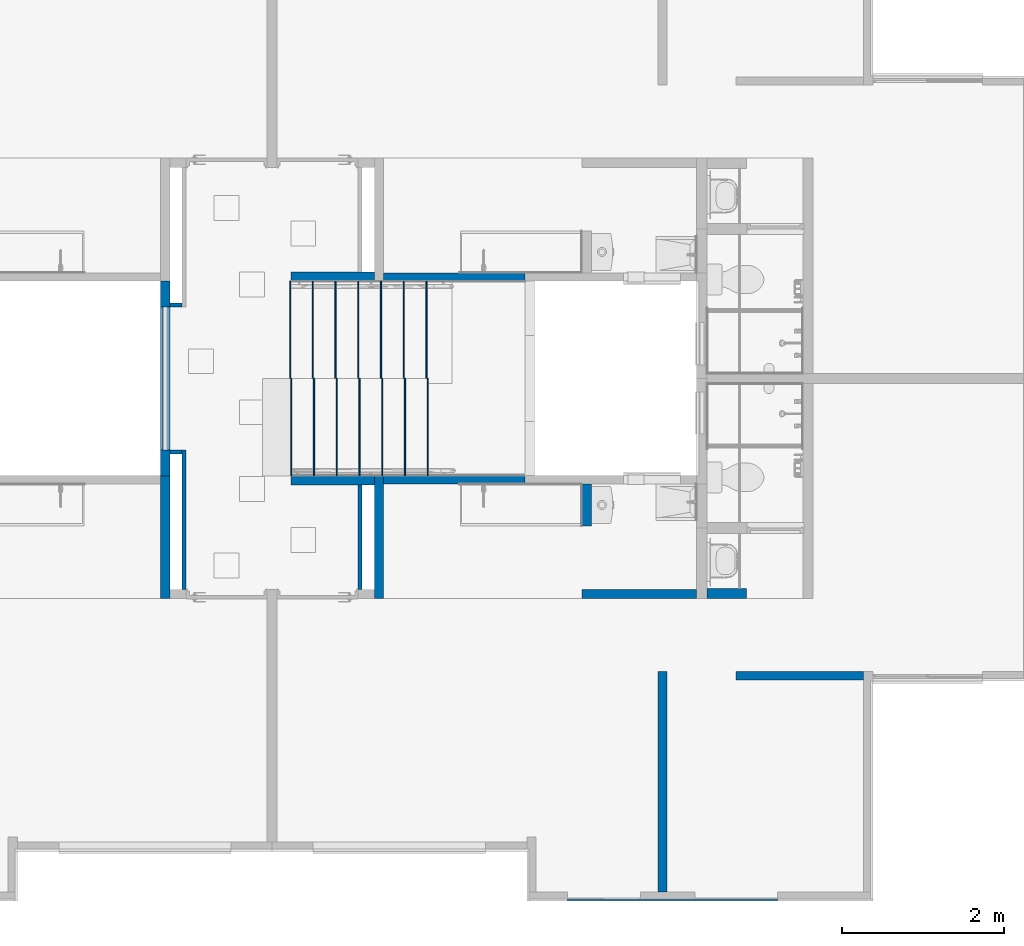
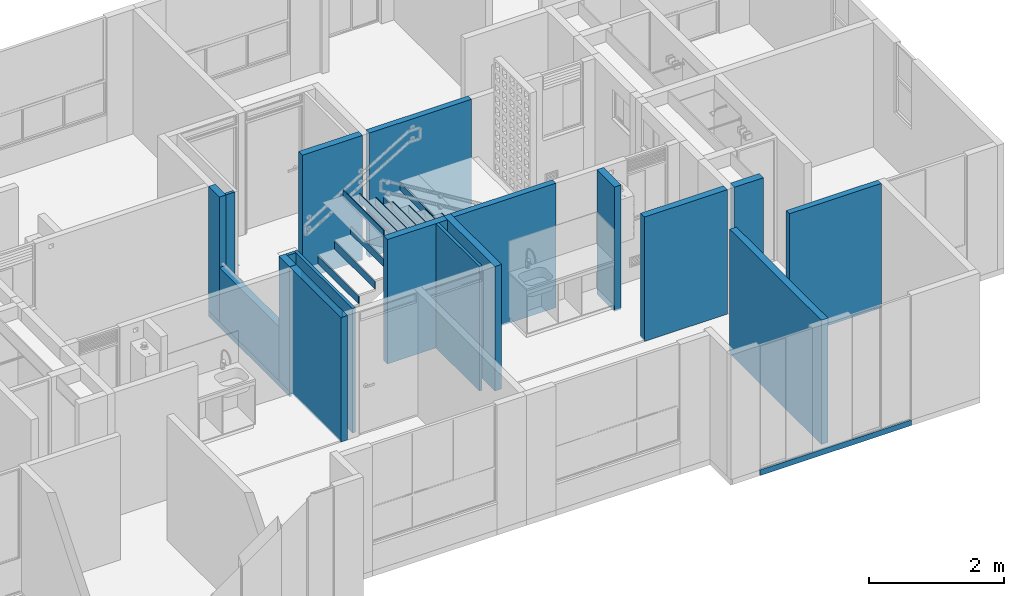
# One storey, part 13 of 48: 34 walls.
"""IFC4 building model written with IfcOpenShell, lengths in metres."""

import ifcopenshell
import ifcopenshell.guid

model = None  # the IFC model being written
_history = None  # IfcOwnerHistory: only IFC2X3 demands one
_inside = {}  # id of a spatial element -> (the spatial element, [elements in it])
_under = {}  # id of a project, library or spatial element -> (it, [spatial elements below it])
_declared = {}  # id of a project -> (the project, [libraries it declares])
_typed = {}  # id of a type object -> (the type object, [elements of that type])
_made_of = {}  # id of a material, layer set ... -> (it, [elements and type objects made of it])


def new_model(schema):
    """Start an empty IFC model of exactly this schema.

    Asked for "IFC4X3", IfcOpenShell would pick the latest addendum, in which some entities
    have other attributes; the version numbers below select the first issue.
    IFC2X3 requires an IfcOwnerHistory on every rooted entity: one is made here for all.
    """
    global model, _history
    if schema == "IFC4X3":
        model = ifcopenshell.file(schema_version=(4, 3, 0, 0))
    else:
        model = ifcopenshell.file(schema=schema)
    _inside.clear()
    _under.clear()
    _declared.clear()
    _typed.clear()
    _made_of.clear()
    _history = None
    if model.schema == "IFC2X3":
        org = make("IfcOrganization", Name="unknown")
        user = make(
            "IfcPersonAndOrganization",
            ThePerson=make("IfcPerson", FamilyName="unknown"),
            TheOrganization=org,
        )
        app = make(
            "IfcApplication",
            ApplicationDeveloper=org,
            Version="unknown",
            ApplicationFullName="unknown",
            ApplicationIdentifier="unknown",
        )
        _history = make(
            "IfcOwnerHistory",
            OwningUser=user,
            OwningApplication=app,
            ChangeAction="ADDED",
            CreationDate=0,
        )
    return model


def make(cls, **values):
    """One entity of the class cls with the attributes given. An attribute that is None is left unset."""
    return model.create_entity(
        cls, **{name: value for name, value in values.items() if value is not None}
    )


def entity(cls, *values):
    """Any entity or typed value of the class cls, its attributes in the order of the schema. None: left unset."""
    e = model.create_entity(cls)
    for i, value in enumerate(values):
        if value is not None:
            e[i] = value
    return e


def rooted(cls, **values):
    """An entity with a GlobalId (a new one), such as an element, a storey or a relation."""
    return make(cls, GlobalId=ifcopenshell.guid.new(), OwnerHistory=_history, **values)


def si_unit(unit_type, name, prefix=None):
    """IfcSIUnit, for example si_unit("LENGTHUNIT", "METRE", prefix="MILLI")."""
    return make("IfcSIUnit", UnitType=unit_type, Prefix=prefix, Name=name)


def converted_unit(unit_type, name, factor, base, dimensions=None, offset=None):
    """IfcConversionBasedUnit, such as the inch: factor (a typed value) times the base unit."""
    return make(
        "IfcConversionBasedUnit"
        if offset is None
        else "IfcConversionBasedUnitWithOffset",
        ConversionOffset=offset,
        Dimensions=None
        if dimensions is None
        else entity("IfcDimensionalExponents", *dimensions),
        UnitType=unit_type,
        Name=name,
        ConversionFactor=make(
            "IfcMeasureWithUnit", ValueComponent=factor, UnitComponent=base
        ),
    )


def derived_unit(unit_type, elements):
    """IfcDerivedUnit: a product of units, each with its exponent."""
    return make(
        "IfcDerivedUnit",
        Elements=[
            make("IfcDerivedUnitElement", Unit=unit, Exponent=power)
            for unit, power in elements
        ],
        UnitType=unit_type,
    )


def assignment(units):
    """IfcUnitAssignment: the units of a project."""
    return None if units is None else make("IfcUnitAssignment", Units=units)


def point(xyz):
    """IfcCartesianPoint."""
    return None if xyz is None else make("IfcCartesianPoint", Coordinates=xyz)


def direction(xyz):
    """IfcDirection."""
    return None if xyz is None else make("IfcDirection", DirectionRatios=xyz)


def frame(location, z_axis=None, x_axis=None):
    """IfcAxis2Placement3D, a coordinate frame: its origin and axes. An axis left out is left unset."""
    return make(
        "IfcAxis2Placement3D",
        Location=point(location),
        Axis=direction(z_axis),
        RefDirection=direction(x_axis),
    )


def origin():
    """The frame at (0, 0, 0) with its axes left unset."""
    return frame((0.0, 0.0, 0.0))


def place(relative_to, where):
    """IfcLocalPlacement: puts the frame where relative to a parent placement (None: the world)."""
    return make(
        "IfcLocalPlacement", PlacementRelTo=relative_to, RelativePlacement=where
    )


def context(
    kind, dimensions, precision=None, world=None, true_north=None, identifier=None
):
    """IfcGeometricRepresentationContext, for example the 3D "Model" context."""
    return make(
        "IfcGeometricRepresentationContext",
        ContextIdentifier=identifier,
        ContextType=kind,
        CoordinateSpaceDimension=dimensions,
        Precision=precision,
        WorldCoordinateSystem=world,
        TrueNorth=true_north,
    )


def subcontext(parent, identifier, kind, view, scale=None):
    """IfcGeometricRepresentationSubContext, for example "Body" below "Model"."""
    return make(
        "IfcGeometricRepresentationSubContext",
        ContextIdentifier=identifier,
        ContextType=kind,
        ParentContext=parent,
        TargetScale=scale,
        TargetView=view,
    )


def project(units=None, contexts=None):
    """IfcProject with its units and contexts."""
    return rooted(
        "IfcProject",
        Name="project",
        RepresentationContexts=contexts,
        UnitsInContext=assignment(units),
    )


def spatial(cls, under=None, at=None, **own):
    """A site, building, storey or space (cls), placed at a placement, below another one or the project."""
    s = rooted(cls, ObjectPlacement=at, **own)
    if under is not None:
        _under.setdefault(under.id(), (under, []))[1].append(s)
    return s


def point_list(points):
    """IfcCartesianPointList2D or 3D."""
    cls = (
        "IfcCartesianPointList2D" if len(points[0]) == 2 else "IfcCartesianPointList3D"
    )
    return make(cls, CoordList=points)


def indexed_curve(points, segments=None, self_intersect=None):
    """IfcIndexedPolyCurve: lines and arcs through numbered points (the first is 1)."""
    return make(
        "IfcIndexedPolyCurve",
        Points=point_list(points),
        Segments=segments,
        SelfIntersect=self_intersect,
    )


def outline(outer, holes=None, kind="AREA"):
    """IfcArbitraryClosedProfileDef: a profile drawn as a closed curve; with holes, ...WithVoids."""
    if holes is None:
        return make("IfcArbitraryClosedProfileDef", ProfileType=kind, OuterCurve=outer)
    return make(
        "IfcArbitraryProfileDefWithVoids",
        ProfileType=kind,
        OuterCurve=outer,
        InnerCurves=holes,
    )


def extrude(swept, where, along, depth):
    """IfcExtrudedAreaSolid: the profile swept, set in the frame where, extruded along a direction by depth."""
    return make(
        "IfcExtrudedAreaSolid",
        SweptArea=swept,
        Position=where,
        ExtrudedDirection=direction(along),
        Depth=depth,
    )


def shape(context_of_items, identifier, shape_type, items):
    """IfcShapeRepresentation: the items that make up one representation, for example the "Body"."""
    return make(
        "IfcShapeRepresentation",
        ContextOfItems=context_of_items,
        RepresentationIdentifier=identifier,
        RepresentationType=shape_type,
        Items=items,
    )


def material(Name=None, Category=None):
    """IfcMaterial."""
    return make("IfcMaterial", Name=Name, Category=Category)


def constituent(of_material, Name=None, Category=None, fraction=None):
    """IfcMaterialConstituent: one of the materials an element consists of."""
    return make(
        "IfcMaterialConstituent",
        Name=Name,
        Material=of_material,
        Fraction=fraction,
        Category=Category,
    )


def constituent_set(constituents=None, Name=None):
    """IfcMaterialConstituentSet."""
    return make(
        "IfcMaterialConstituentSet", Name=Name, MaterialConstituents=constituents
    )


def made_of(thing, what):
    """Note that an element or type object is made of a material, layer set ...; save() writes the relation."""
    if what is not None:
        _made_of.setdefault(what.id(), (what, []))[1].append(thing)
    return thing


def type_object(cls, material=None, **own):
    """A type object (cls), such as IfcWallType, which elements share."""
    return made_of(rooted(cls, **own), material)


def element(
    cls,
    number,
    at=None,
    inside=None,
    cuts=None,
    type_object=None,
    material=None,
    context=None,
    identifier="Body",
    shape_type=None,
    held_by="IfcProductDefinitionShape",
    body=None,
    shapes=None,
    **own,
):
    """One element of the class cls, such as IfcWall. Its Tag is "e" and its number.

    at: its placement. inside: the storey or other place that contains it. cuts: it is an
    opening in that element (IfcRelVoidsElement). A single representation is given by context,
    identifier, shape_type and body (its items); several are given by shapes. held_by: the class
    of the entity that holds the representations. save() writes the other relations.
    """
    e = rooted(cls, Tag="e%d" % number, ObjectPlacement=at, **own)
    if body is not None:
        shapes = [shape(context, identifier, shape_type, body)]
    if shapes is not None:
        e.Representation = make(held_by, Representations=shapes)
    if inside is not None:
        _inside.setdefault(inside.id(), (inside, []))[1].append(e)
    if cuts is not None:
        rooted(
            "IfcRelVoidsElement", RelatingBuildingElement=cuts, RelatedOpeningElement=e
        )
    if type_object is not None:
        _typed.setdefault(type_object.id(), (type_object, []))[1].append(e)
    return made_of(e, material)


def aggregate(whole, parts):
    """IfcRelAggregates: a whole, such as a stair, and the parts it consists of."""
    return rooted("IfcRelAggregates", RelatingObject=whole, RelatedObjects=parts)


def save(model, path):
    """Write the relations noted so far, then the file.

    IfcRelAggregates (storeys below a building ...), IfcRelContainedInSpatialStructure (elements
    in a storey), IfcRelDefinesByType, IfcRelAssociatesMaterial and IfcRelDeclares: one each for
    every whole, place, type object, material and project.
    """
    for whole, parts in _under.values():
        aggregate(whole, parts)
    for where, things in _inside.values():
        rooted(
            "IfcRelContainedInSpatialStructure",
            RelatedElements=things,
            RelatingStructure=where,
        )
    for kind, things in _typed.values():
        rooted("IfcRelDefinesByType", RelatedObjects=things, RelatingType=kind)
    for what, things in _made_of.values():
        rooted("IfcRelAssociatesMaterial", RelatedObjects=things, RelatingMaterial=what)
    for by, libraries in _declared.values():
        rooted("IfcRelDeclares", RelatingContext=by, RelatedDefinitions=libraries)
    model.write(path)


model = new_model("IFC4")

# Units and contexts
model_context = context("Model", 3, precision=1e-05, world=origin(), true_north=direction((6.123031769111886e-17, 1.0)))
body_context = subcontext(model_context, "Body", "Model", "MODEL_VIEW")
ifc_project = project(units=[si_unit("LENGTHUNIT", "METRE"), si_unit("AREAUNIT", "SQUARE_METRE"), si_unit("VOLUMEUNIT", "CUBIC_METRE"), converted_unit("PLANEANGLEUNIT", "DEGREE", entity("IfcRatioMeasure", 0.017453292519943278), si_unit("PLANEANGLEUNIT", "RADIAN"), dimensions=[0, 0, 0, 0, 0, 0, 0]), si_unit("MASSUNIT", "GRAM", prefix="KILO"), derived_unit("MASSDENSITYUNIT", [(si_unit("MASSUNIT", "GRAM", prefix="KILO"), 1), (si_unit("LENGTHUNIT", "METRE"), -3)]), derived_unit("IONCONCENTRATIONUNIT", [(si_unit("MASSUNIT", "GRAM", prefix="KILO"), 1), (si_unit("LENGTHUNIT", "METRE"), -3)]), derived_unit("MOMENTOFINERTIAUNIT", [(si_unit("LENGTHUNIT", "METRE"), 4)]), si_unit("TIMEUNIT", "SECOND"), si_unit("FREQUENCYUNIT", "HERTZ"), si_unit("THERMODYNAMICTEMPERATUREUNIT", "DEGREE_CELSIUS"), derived_unit("THERMALTRANSMITTANCEUNIT", [(si_unit("MASSUNIT", "GRAM", prefix="KILO"), 1), (si_unit("THERMODYNAMICTEMPERATUREUNIT", "KELVIN"), -1), (si_unit("TIMEUNIT", "SECOND"), -3)]), derived_unit("THERMALCONDUCTANCEUNIT", [(si_unit("MASSUNIT", "GRAM", prefix="KILO"), 1), (si_unit("THERMODYNAMICTEMPERATUREUNIT", "KELVIN"), -1), (si_unit("TIMEUNIT", "SECOND"), -3), (si_unit("LENGTHUNIT", "METRE"), 1)]), derived_unit("VOLUMETRICFLOWRATEUNIT", [(si_unit("LENGTHUNIT", "METRE"), 3), (si_unit("TIMEUNIT", "SECOND"), -1)]), derived_unit("MASSFLOWRATEUNIT", [(si_unit("MASSUNIT", "GRAM", prefix="KILO"), 1), (si_unit("TIMEUNIT", "SECOND"), -1)]), derived_unit("ROTATIONALFREQUENCYUNIT", [(si_unit("TIMEUNIT", "SECOND"), -1)]), si_unit("ELECTRICCURRENTUNIT", "AMPERE"), si_unit("ELECTRICVOLTAGEUNIT", "VOLT"), si_unit("POWERUNIT", "WATT"), si_unit("FORCEUNIT", "NEWTON", prefix="KILO"), si_unit("ILLUMINANCEUNIT", "LUX"), si_unit("LUMINOUSFLUXUNIT", "LUMEN"), si_unit("LUMINOUSINTENSITYUNIT", "CANDELA"), derived_unit("USERDEFINED", [(si_unit("MASSUNIT", "GRAM", prefix="KILO"), -1), (si_unit("LENGTHUNIT", "METRE"), -2), (si_unit("TIMEUNIT", "SECOND"), 3), (si_unit("LUMINOUSFLUXUNIT", "LUMEN"), 1)]), derived_unit("USERDEFINED", [(si_unit("MASSUNIT", "GRAM", prefix="KILO"), 1), (si_unit("TIMEUNIT", "SECOND"), -3), (si_unit("LENGTHUNIT", "METRE"), 3), (si_unit("ELECTRICCURRENTUNIT", "AMPERE"), -2)]), derived_unit("SOUNDPOWERUNIT", [(si_unit("MASSUNIT", "GRAM", prefix="KILO"), 1), (si_unit("TIMEUNIT", "SECOND"), -3), (si_unit("LENGTHUNIT", "METRE"), 2)]), derived_unit("SOUNDPRESSUREUNIT", [(si_unit("MASSUNIT", "GRAM", prefix="KILO"), 1), (si_unit("LENGTHUNIT", "METRE"), -1), (si_unit("TIMEUNIT", "SECOND"), -2)]), derived_unit("LINEARVELOCITYUNIT", [(si_unit("LENGTHUNIT", "METRE"), 1), (si_unit("TIMEUNIT", "SECOND"), -1)]), si_unit("PRESSUREUNIT", "PASCAL"), derived_unit("USERDEFINED", [(si_unit("MASSUNIT", "GRAM", prefix="KILO"), 1), (si_unit("LENGTHUNIT", "METRE"), -2), (si_unit("TIMEUNIT", "SECOND"), -2)]), derived_unit("LINEARFORCEUNIT", [(si_unit("MASSUNIT", "GRAM", prefix="KILO"), 1), (si_unit("TIMEUNIT", "SECOND"), -2)]), derived_unit("PLANARFORCEUNIT", [(si_unit("MASSUNIT", "GRAM", prefix="KILO"), 1), (si_unit("LENGTHUNIT", "METRE"), -1), (si_unit("TIMEUNIT", "SECOND"), -2)]), derived_unit("SPECIFICHEATCAPACITYUNIT", [(si_unit("THERMODYNAMICTEMPERATUREUNIT", "KELVIN"), -1), (si_unit("LENGTHUNIT", "METRE"), 2), (si_unit("TIMEUNIT", "SECOND"), -2)]), derived_unit("HEATINGVALUEUNIT", [(si_unit("LENGTHUNIT", "METRE"), 2), (si_unit("TIMEUNIT", "SECOND"), -2)]), derived_unit("VAPORPERMEABILITYUNIT", [(si_unit("LENGTHUNIT", "METRE"), -1), (si_unit("TIMEUNIT", "SECOND"), 1)]), derived_unit("DYNAMICVISCOSITYUNIT", [(si_unit("MASSUNIT", "GRAM", prefix="KILO"), 1), (si_unit("TIMEUNIT", "SECOND"), -1), (si_unit("LENGTHUNIT", "METRE"), -1)]), derived_unit("THERMALEXPANSIONCOEFFICIENTUNIT", [(si_unit("THERMODYNAMICTEMPERATUREUNIT", "KELVIN"), -1)]), derived_unit("MODULUSOFELASTICITYUNIT", [(si_unit("MASSUNIT", "GRAM", prefix="KILO"), 1), (si_unit("LENGTHUNIT", "METRE"), -1), (si_unit("TIMEUNIT", "SECOND"), -2)]), derived_unit("ISOTHERMALMOISTURECAPACITYUNIT", [(si_unit("LENGTHUNIT", "METRE"), 3), (si_unit("MASSUNIT", "GRAM", prefix="KILO"), -1)]), derived_unit("MOISTUREDIFFUSIVITYUNIT", [(si_unit("TIMEUNIT", "SECOND"), -1), (si_unit("LENGTHUNIT", "METRE"), 2)])], contexts=[model_context])

# Site, building, storey
site_placement = place(None, origin())
site = spatial("IfcSite", under=ifc_project, at=site_placement, Name="Default", CompositionType="ELEMENT")
building_placement = place(site_placement, origin())
building = spatial("IfcBuilding", under=site, at=building_placement, CompositionType="ELEMENT")
storey_placement = place(building_placement, frame((0.0, 0.0, 9.40000000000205)))
storey = spatial("IfcBuildingStorey", under=building, at=storey_placement, Name="Nivel 5", CompositionType="ELEMENT", Elevation=9.40000000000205)

# Walls
ifc_material_1 = material(Name="Ladrillo claro (Aire)", Category="Materials")
wall_type_1 = type_object("IfcWallType", Name="Basic Wall:B2010 - 0.115m - Muro interior en mampostería - Ladrillo", PredefinedType="STANDARD")
wall_1_placement = place(storey_placement, frame((14.135000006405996, -12.755000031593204, 0.0), z_axis=(0.0, 0.0, 1.0), x_axis=(0.0, 1.0, 0.0)))
element("IfcWall", 1, at=wall_1_placement, inside=storey, type_object=wall_type_1, material=ifc_material_1, Name="Basic Wall:B2010 - 0.115m - Muro interior en mampostería - Ladrillo", ObjectType="Basic Wall:B2010 - 0.115m - Muro interior en mampostería - Ladrillo", PredefinedType="NOTDEFINED", context=body_context, shape_type="SweptSolid", body=[
    extrude(outline(indexed_curve([(2.7150000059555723, 0.05750000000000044), (8.08167206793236e-17, 0.057499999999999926), (-8.08167206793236e-17, -0.057499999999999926), (2.7150000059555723, -0.057499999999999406), (2.7150000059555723, 0.05750000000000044)], self_intersect=False)), origin(), (0.0, 0.0, 1.0), 2.2499999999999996),
])
wall_2_placement = place(storey_placement, frame((14.557500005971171, -9.082499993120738, 0.0), z_axis=(0.0, 0.0, 1.0), x_axis=(-1.0, 0.0, 0.0)))
element("IfcWall", 2, at=wall_2_placement, inside=storey, type_object=wall_type_1, material=ifc_material_1, Name="Basic Wall:B2010 - 0.115m - Muro interior en mampostería - Ladrillo", ObjectType="Basic Wall:B2010 - 0.115m - Muro interior en mampostería - Ladrillo", PredefinedType="NOTDEFINED", context=body_context, shape_type="SweptSolid", body=[
    extrude(outline(indexed_curve([(1.4149999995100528, 0.05750000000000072), (-5.604877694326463e-16, 0.057499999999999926), (5.604877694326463e-16, -0.057499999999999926), (1.414999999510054, -0.05749999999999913), (1.4149999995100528, 0.05750000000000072)], self_intersect=False)), origin(), (0.0, 0.0, 1.0), 2.2499999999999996),
])
wall_3_placement = place(storey_placement, frame((10.639999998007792, -7.625000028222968, 0.0), z_axis=(0.0, 0.0, 1.0), x_axis=(0.0, -1.0, 0.0)))
element("IfcWall", 3, at=wall_3_placement, inside=storey, type_object=wall_type_1, material=ifc_material_1, Name="Basic Wall:B2010 - 0.115m - Muro interior en mampostería - Ladrillo", ObjectType="Basic Wall:B2010 - 0.115m - Muro interior en mampostería - Ladrillo", PredefinedType="NOTDEFINED", context=body_context, shape_type="SweptSolid", body=[
    extrude(outline(indexed_curve([(1.5150000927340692, 0.05750000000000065), (-2.7419363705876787e-16, 0.057499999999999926), (2.7419363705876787e-16, -0.057499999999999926), (1.5150000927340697, -0.0574999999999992), (1.5150000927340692, 0.05750000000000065)], self_intersect=False)), origin(), (0.0, 0.0, 1.0), 2.2499999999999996),
])
wall_4_placement = place(storey_placement, frame((8.00500000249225, -7.6250000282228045, 0.0), z_axis=(0.0, 0.0, 1.0), x_axis=(0.0, -1.0, 0.0)))
element("IfcWall", 4, at=wall_4_placement, inside=storey, type_object=wall_type_1, material=ifc_material_1, Name="Basic Wall:B2010 - 0.115m - Muro interior en mampostería - Ladrillo", ObjectType="Basic Wall:B2010 - 0.115m - Muro interior en mampostería - Ladrillo", PredefinedType="NOTDEFINED", context=body_context, shape_type="SweptSolid", body=[
    extrude(outline(indexed_curve([(1.5150000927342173, 0.05750000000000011), (-4.5913366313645e-16, 0.057499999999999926), (4.5913366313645e-16, -0.057499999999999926), (1.5150000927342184, -0.05749999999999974), (1.5150000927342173, 0.05750000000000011)], self_intersect=False)), origin(), (0.0, 0.0, 1.0), 2.250000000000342),
])
ifc_material_2 = material(Name="Concreto (Aire)", Category="Materials")
wall_type_2 = type_object("IfcWallType", Name="Basic Wall:B2010 - 0.10m - Muro interior en concreto", PredefinedType="STANDARD")
wall_5_placement = place(storey_placement, frame((16.612500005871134, -10.090000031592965, 0.0), z_axis=(0.0, 0.0, 1.0), x_axis=(-1.0, 0.0, 0.0)))
element("IfcWall", 5, at=wall_5_placement, inside=storey, type_object=wall_type_2, material=ifc_material_2, Name="Basic Wall:B2010 - 0.10m - Muro interior en concreto", ObjectType="Basic Wall:B2010 - 0.10m - Muro interior en concreto", PredefinedType="NOTDEFINED", context=body_context, shape_type="SweptSolid", body=[
    extrude(outline(indexed_curve([(1.5699999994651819, 0.04999999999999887), (7.775903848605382e-16, 0.04999999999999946), (-7.775903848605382e-16, -0.04999999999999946), (1.5699999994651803, -0.05000000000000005), (1.5699999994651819, 0.04999999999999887)], self_intersect=False)), origin(), (0.0, 0.0, 1.0), 2.2499999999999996),
])
ifc_material_3 = material(Name="Pañete", Category="Materials")
ifc_constituent_1 = constituent(ifc_material_3, Name="Pañete", Category="Materials")
ifc_constituent_2 = constituent(ifc_material_1, Name="Ladrillo claro (Aire)", Category="Materials")
ifc_constituent_set_1 = constituent_set(constituents=[ifc_constituent_1, ifc_constituent_2], Name="Basic Wall:B2010 - 0.115m - Muro interior en mampostería - Ladrillo + Pañete")
wall_type_3 = type_object("IfcWallType", Name="Basic Wall:B2010 - 0.115m - Muro interior en mampostería - Ladrillo + Pañete", PredefinedType="STANDARD", material=ifc_constituent_set_1)
wall_6_placement = place(storey_placement, frame((15.172500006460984, -9.07749999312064, 0.0), z_axis=(0.0, 0.0, 1.0), x_axis=(-1.0, 0.0, 0.0)))
element("IfcWall", 6, at=wall_6_placement, inside=storey, type_object=wall_type_3, material=ifc_constituent_set_1, Name="Basic Wall:B2010 - 0.115m - Muro interior en mampostería - Ladrillo + Pañete", ObjectType="Basic Wall:B2010 - 0.115m - Muro interior en mampostería - Ladrillo + Pañete", PredefinedType="NOTDEFINED", context=body_context, shape_type="SweptSolid", body=[
    extrude(outline(indexed_curve([(-0.005000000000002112, -0.24500000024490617), (0.0049999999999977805, -0.24500000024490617), (0.005000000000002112, 0.24500000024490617), (-0.0049999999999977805, 0.24500000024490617), (-0.005000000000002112, -0.24500000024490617)], self_intersect=False)), frame((0.24500000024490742, -0.057499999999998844, 0.0), z_axis=(0.0, 0.0, 1.0), x_axis=(0.0, 1.0, 0.0)), (0.0, 0.0, 1.0), 2.2500000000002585),
    extrude(outline(indexed_curve([(-0.05749999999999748, -0.24500000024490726), (0.05750000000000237, -0.24500000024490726), (0.05749999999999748, 0.2450000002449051), (-0.05750000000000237, 0.24500000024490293), (-0.05749999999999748, -0.24500000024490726)], self_intersect=False)), frame((0.245000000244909, 0.005000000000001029, 0.0), z_axis=(0.0, 0.0, 1.0), x_axis=(0.0, -1.0, 0.0)), (0.0, 0.0, 1.0), 2.2500000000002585),
])
ifc_material_4 = material(Name="LADRILLO CLARO", Category="Materials")
wall_type_4 = type_object("IfcWallType", Name="Basic Wall:B2010 - 0.115m - MI mampostería no estructural - Ladrillo", PredefinedType="STANDARD")
wall_7_placement = place(storey_placement, frame((8.005000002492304, -5.545000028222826, 0.0), z_axis=(0.0, 0.0, 1.0), x_axis=(0.0, -1.0, 0.0)))
element("IfcWall", 7, at=wall_7_placement, inside=storey, type_object=wall_type_4, material=ifc_material_4, Name="Basic Wall:B2010 - 0.115m - MI mampostería no estructural - Ladrillo", ObjectType="Basic Wall:B2010 - 0.115m - MI mampostería no estructural - Ladrillo", PredefinedType="NOTDEFINED", context=body_context, shape_type="SweptSolid", body=[
    extrude(outline(indexed_curve([(1.7599999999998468, 0.05750000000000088), (-1.0186480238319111e-16, 0.057499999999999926), (1.0186480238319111e-16, -0.057499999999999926), (1.7599999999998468, -0.05749999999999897), (1.7599999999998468, 0.05750000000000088)], self_intersect=False)), origin(), (0.0, 0.0, 1.0), 0.9749999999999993),
])
wall_8_placement = place(storey_placement, frame((13.200000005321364, -8.245000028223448, 0.0), z_axis=(0.0, 0.0, 1.0), x_axis=(0.0, 1.0, 0.0)))
element("IfcWall", 8, at=wall_8_placement, inside=storey, type_object=wall_type_4, material=ifc_material_4, Name="Basic Wall:B2010 - 0.115m - MI mampostería no estructural - Ladrillo", ObjectType="Basic Wall:B2010 - 0.115m - MI mampostería no estructural - Ladrillo", PredefinedType="NOTDEFINED", context=body_context, shape_type="SweptSolid", body=[
    extrude(outline(indexed_curve([(0.5195000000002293, 0.057499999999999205), (-1.6027407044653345e-16, 0.057499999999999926), (1.6027407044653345e-16, -0.057499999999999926), (0.5195000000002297, -0.05750000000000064), (0.5195000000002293, 0.057499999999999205)], self_intersect=False)), origin(), (0.0, 0.0, 1.0), 2.2500000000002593),
])
wall_9_placement = place(storey_placement, frame((8.00500000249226, -5.545000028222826, 0.0), z_axis=(0.0, 0.0, 1.0), x_axis=(0.0, 1.0, 0.0)))
element("IfcWall", 9, at=wall_9_placement, inside=storey, type_object=wall_type_4, material=ifc_material_4, Name="Basic Wall:B2010 - 0.115m - MI mampostería no estructural - Ladrillo", ObjectType="Basic Wall:B2010 - 0.115m - MI mampostería no estructural - Ladrillo", PredefinedType="NOTDEFINED", context=body_context, shape_type="SweptSolid", body=[
    extrude(outline(indexed_curve([(0.3200000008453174, 0.05750000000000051), (9.033989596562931e-17, 0.057499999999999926), (-9.033989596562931e-17, -0.057499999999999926), (0.3200000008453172, -0.057499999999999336), (0.3200000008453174, 0.05750000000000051)], self_intersect=False)), origin(), (0.0, 0.0, 1.0), 2.250000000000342),
])
wall_10_placement = place(storey_placement, frame((8.005000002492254, -7.305000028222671, 0.0), z_axis=(0.0, 0.0, 1.0), x_axis=(0.0, -1.0, 0.0)))
element("IfcWall", 10, at=wall_10_placement, inside=storey, type_object=wall_type_4, material=ifc_material_4, Name="Basic Wall:B2010 - 0.115m - MI mampostería no estructural - Ladrillo", ObjectType="Basic Wall:B2010 - 0.115m - MI mampostería no estructural - Ladrillo", PredefinedType="NOTDEFINED", context=body_context, shape_type="SweptSolid", body=[
    extrude(outline(indexed_curve([(0.3200000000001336, 0.05749999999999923), (-4.5913366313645e-16, 0.057499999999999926), (4.5913366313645e-16, -0.057499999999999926), (0.32000000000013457, -0.05750000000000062), (0.3200000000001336, 0.05749999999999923)], self_intersect=False)), origin(), (0.0, 0.0, 1.0), 2.250000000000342),
])
ifc_material_5 = material(Name="0 muro divisorio", Category="Materials")
wall_type_5 = type_object("IfcWallType", Name="Basic Wall:B2010 - 0.05m - MI No estructural- Concreto", PredefinedType="STANDARD")
wall_11_placement = place(storey_placement, frame((8.212500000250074, -5.520000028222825, 0.0), z_axis=(0.0, 0.0, 1.0), x_axis=(-1.0, 0.0, 0.0)))
element("IfcWall", 11, at=wall_11_placement, inside=storey, type_object=wall_type_5, material=ifc_material_5, Name="Basic Wall:B2010 - 0.05m - MI No estructural- Concreto", ObjectType="Basic Wall:B2010 - 0.05m - MI No estructural- Concreto", PredefinedType="NOTDEFINED", context=body_context, shape_type="SweptSolid", body=[
    extrude(outline(indexed_curve([(0.14999999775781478, 0.02499999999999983), (-1.6892508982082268e-17, 0.02499999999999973), (1.6892508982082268e-17, -0.02499999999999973), (0.1499999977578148, -0.02499999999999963), (0.14999999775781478, 0.02499999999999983)], self_intersect=False)), origin(), (0.0, 0.0, 1.0), 2.2499999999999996),
])
wall_12_placement = place(storey_placement, frame((8.237500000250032, -7.305000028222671, 0.0), z_axis=(0.0, 0.0, 1.0), x_axis=(0.0, -1.0, 0.0)))
element("IfcWall", 12, at=wall_12_placement, inside=storey, type_object=wall_type_5, material=ifc_material_5, Name="Basic Wall:B2010 - 0.05m - MI No estructural- Concreto", ObjectType="Basic Wall:B2010 - 0.05m - MI No estructural- Concreto", PredefinedType="NOTDEFINED", context=body_context, shape_type="SweptSolid", body=[
    extrude(outline(indexed_curve([(1.719999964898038, 0.02499999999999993), (-3.4343744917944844e-17, 0.02499999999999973), (3.4343744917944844e-17, -0.02499999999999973), (1.719999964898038, -0.024999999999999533), (1.719999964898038, 0.02499999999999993)], self_intersect=False)), origin(), (0.0, 0.0, 1.0), 2.2499999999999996),
])
wall_13_placement = place(storey_placement, frame((8.212500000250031, -7.330000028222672, 0.0), z_axis=(0.0, 0.0, 1.0), x_axis=(-1.0, 0.0, 0.0)))
element("IfcWall", 13, at=wall_13_placement, inside=storey, type_object=wall_type_5, material=ifc_material_5, Name="Basic Wall:B2010 - 0.05m - MI No estructural- Concreto", ObjectType="Basic Wall:B2010 - 0.05m - MI No estructural- Concreto", PredefinedType="NOTDEFINED", context=body_context, shape_type="SweptSolid", body=[
    extrude(outline(indexed_curve([(0.14999999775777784, 0.02499999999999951), (-1.4345260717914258e-16, 0.02499999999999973), (1.4345260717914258e-16, -0.02499999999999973), (0.14999999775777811, -0.024999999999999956), (0.14999999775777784, 0.02499999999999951)], self_intersect=False)), origin(), (0.0, 0.0, 1.0), 2.2499999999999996),
])
wall_14_placement = place(storey_placement, frame((10.407500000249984, -7.740000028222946, 0.0), z_axis=(0.0, 0.0, 1.0), x_axis=(0.0, -1.0, 0.0)))
element("IfcWall", 14, at=wall_14_placement, inside=storey, type_object=wall_type_5, material=ifc_material_5, Name="Basic Wall:B2010 - 0.05m - MI No estructural- Concreto", ObjectType="Basic Wall:B2010 - 0.05m - MI No estructural- Concreto", PredefinedType="NOTDEFINED", context=body_context, shape_type="SweptSolid", body=[
    extrude(outline(indexed_curve([(1.2849999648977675, 0.025000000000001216), (3.434374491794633e-17, 0.025000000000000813), (-3.434374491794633e-17, -0.025000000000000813), (1.2849999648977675, -0.02500000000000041), (1.2849999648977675, 0.025000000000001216)], self_intersect=False)), origin(), (0.0, 0.0, 1.0), 2.2499999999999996),
])
wall_type_6 = type_object("IfcWallType", Name="Basic Wall:B2010 - 0.03m - ME enchape  no estructural - Ladrillo", PredefinedType="STANDARD")
wall_15_placement = place(storey_placement, frame((7.962500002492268, -5.225000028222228, -0.1000000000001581), z_axis=(0.0, 0.0, 1.0), x_axis=(0.0, -1.0, 0.0)))
element("IfcWall", 15, at=wall_15_placement, inside=storey, type_object=wall_type_6, material=ifc_material_4, Name="Basic Wall:B2010 - 0.03m - ME enchape  no estructural - Ladrillo", ObjectType="Basic Wall:B2010 - 0.03m - ME enchape  no estructural - Ladrillo", PredefinedType="NOTDEFINED", context=body_context, shape_type="SweptSolid", body=[
    extrude(outline(indexed_curve([(2.4000000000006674, 0.014999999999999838), (-2.7071678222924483e-17, 0.014999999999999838), (2.7071678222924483e-17, -0.014999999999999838), (2.4000000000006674, -0.014999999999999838), (2.4000000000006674, 0.014999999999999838)], self_intersect=False)), origin(), (0.0, 0.0, 1.0), 0.09999999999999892),
])
wall_16_placement = place(storey_placement, frame((12.962500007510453, -12.855000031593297, -0.10000000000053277)))
element("IfcWall", 16, at=wall_16_placement, inside=storey, type_object=wall_type_6, material=ifc_material_4, Name="Basic Wall:B2010 - 0.03m - ME enchape  no estructural - Ladrillo", ObjectType="Basic Wall:B2010 - 0.03m - ME enchape  no estructural - Ladrillo", PredefinedType="NOTDEFINED", context=body_context, shape_type="SweptSolid", body=[
    extrude(outline(indexed_curve([(2.5899999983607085, 0.015000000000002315), (-4.570130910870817e-17, 0.015000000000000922), (4.570130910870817e-17, -0.015000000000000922), (2.5899999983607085, -0.014999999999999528), (2.5899999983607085, 0.015000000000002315)], self_intersect=False)), origin(), (0.0, 0.0, 1.0), 0.09999999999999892),
])
ifc_material_6 = material(Name="Pintura blanca", Category="Materials")
ifc_constituent_3 = constituent(ifc_material_6, Name="Pintura blanca", Category="Materials")
ifc_constituent_4 = constituent(ifc_material_2, Name="Concreto (Aire)", Category="Materials")
ifc_constituent_set_2 = constituent_set(constituents=[ifc_constituent_3, ifc_constituent_4], Name="Basic Wall:B2010 - 0.10m - MI Concreto- Concreto+ Pintura")
wall_type_7 = type_object("IfcWallType", Name="Basic Wall:B2010 - 0.10m - MI Concreto- Concreto+ Pintura", PredefinedType="STANDARD", material=ifc_constituent_set_2)
wall_17_placement = place(storey_placement, frame((10.6974999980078, -5.175000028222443, 0.0)))
element("IfcWall", 17, at=wall_17_placement, inside=storey, type_object=wall_type_7, material=ifc_constituent_set_2, Name="Basic Wall:B2010 - 0.10m - MI Concreto- Concreto+ Pintura", ObjectType="Basic Wall:B2010 - 0.10m - MI Concreto- Concreto+ Pintura", PredefinedType="NOTDEFINED", context=body_context, shape_type="SweptSolid", body=[
    extrude(outline(indexed_curve([(-0.000500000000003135, -0.8725000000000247), (0.0004999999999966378, -0.8725000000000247), (0.0005000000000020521, 0.8725000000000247), (-0.0004999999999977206, 0.8725000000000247), (-0.000500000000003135, -0.8725000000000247)], self_intersect=False)), frame((0.8725000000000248, -0.04999999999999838, 0.0), z_axis=(0.0, 0.0, 1.0), x_axis=(0.0, 1.0, 0.0)), (0.0, 0.0, 1.0), 2.2500000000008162),
    extrude(outline(indexed_curve([(-0.05000000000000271, -0.8725000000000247), (0.0499999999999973, -0.8725000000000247), (0.05000000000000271, 0.8725000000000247), (-0.0499999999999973, 0.8725000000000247), (-0.05000000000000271, -0.8725000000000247)], self_intersect=False)), frame((0.8725000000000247, 0.0005000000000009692, 0.0), z_axis=(0.0, 0.0, 1.0), x_axis=(0.0, -1.0, 0.0)), (0.0, 0.0, 1.0), 2.2500000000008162),
])
wall_18_placement = place(storey_placement, frame((10.69749999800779, -7.675000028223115, 0.0)))
element("IfcWall", 18, at=wall_18_placement, inside=storey, type_object=wall_type_7, material=ifc_constituent_set_2, Name="Basic Wall:B2010 - 0.10m - MI Concreto- Concreto+ Pintura", ObjectType="Basic Wall:B2010 - 0.10m - MI Concreto- Concreto+ Pintura", PredefinedType="NOTDEFINED", context=body_context, shape_type="SweptSolid", body=[
    extrude(outline(indexed_curve([(-0.000500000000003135, -0.8725000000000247), (0.0004999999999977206, -0.8725000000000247), (0.000500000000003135, 0.8725000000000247), (-0.0004999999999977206, 0.8725000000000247), (-0.000500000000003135, -0.8725000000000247)], self_intersect=False)), frame((0.8725000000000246, 0.04999999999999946, 0.0), z_axis=(0.0, 0.0, 1.0), x_axis=(0.0, -1.0, 0.0)), (0.0, 0.0, 1.0), 2.2500000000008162),
    extrude(outline(indexed_curve([(-0.05000000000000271, -0.8725000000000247), (0.049999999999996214, -0.8725000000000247), (0.050000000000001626, 0.8725000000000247), (-0.0499999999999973, 0.8725000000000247), (-0.05000000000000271, -0.8725000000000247)], self_intersect=False)), frame((0.8725000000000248, -0.0004999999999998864, 0.0), z_axis=(0.0, 0.0, 1.0), x_axis=(0.0, 1.0, 0.0)), (0.0, 0.0, 1.0), 2.2500000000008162),
])
ifc_material_7 = material(Name="PISO GRES SAHARA 30X30", Category="Materials")
wall_type_8 = type_object("IfcWallType", Name="Basic Wall:B2010 - 0.015-Enchape- Gres", PredefinedType="STANDARD")
wall_19_placement = place(storey_placement, frame((9.545000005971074, -5.225000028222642, 0.02999999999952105), z_axis=(0.0, 0.0, 1.0), x_axis=(0.0, -1.0, 0.0)))
element("IfcWall", 19, at=wall_19_placement, inside=storey, type_object=wall_type_8, material=ifc_material_7, Name="Basic Wall:B2010 - 0.015-Enchape- Gres", ObjectType="Basic Wall:B2010 - 0.015-Enchape- Gres", PredefinedType="NOTDEFINED", context=body_context, shape_type="SweptSolid", body=[
    extrude(outline(indexed_curve([(1.1999999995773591, 0.007500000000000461), (-1.3535839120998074e-17, 0.007500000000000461), (1.3535839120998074e-17, -0.007500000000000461), (1.1999999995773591, -0.007500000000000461), (1.1999999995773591, 0.007500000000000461)], self_intersect=False)), origin(), (0.0, 0.0, 1.0), 0.137857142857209),
])
wall_20_placement = place(storey_placement, frame((9.825000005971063, -5.22500002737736, 0.1978571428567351), z_axis=(0.0, 0.0, 1.0), x_axis=(0.0, -1.0, 0.0)))
element("IfcWall", 20, at=wall_20_placement, inside=storey, type_object=wall_type_8, material=ifc_material_7, Name="Basic Wall:B2010 - 0.015-Enchape- Gres", ObjectType="Basic Wall:B2010 - 0.015-Enchape- Gres", PredefinedType="NOTDEFINED", context=body_context, shape_type="SweptSolid", body=[
    extrude(outline(indexed_curve([(1.200000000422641, 0.007500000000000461), (0.0, 0.007500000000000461), (0.0, -0.007500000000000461), (1.200000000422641, -0.007500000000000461), (1.200000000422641, 0.007500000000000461)], self_intersect=False)), origin(), (0.0, 0.0, 1.0), 0.13785714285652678),
])
wall_21_placement = place(storey_placement, frame((10.10500000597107, -5.22500002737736, 0.3657142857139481), z_axis=(0.0, 0.0, 1.0), x_axis=(0.0, -1.0, 0.0)))
element("IfcWall", 21, at=wall_21_placement, inside=storey, type_object=wall_type_8, material=ifc_material_7, Name="Basic Wall:B2010 - 0.015-Enchape- Gres", ObjectType="Basic Wall:B2010 - 0.015-Enchape- Gres", PredefinedType="NOTDEFINED", context=body_context, shape_type="SweptSolid", body=[
    extrude(outline(indexed_curve([(1.200000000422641, 0.007500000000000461), (0.0, 0.007500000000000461), (0.0, -0.007500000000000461), (1.200000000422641, -0.007500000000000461), (1.200000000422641, 0.007500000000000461)], self_intersect=False)), origin(), (0.0, 0.0, 1.0), 0.13785714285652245),
])
wall_22_placement = place(storey_placement, frame((10.385000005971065, -5.22500002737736, 0.5335714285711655), z_axis=(0.0, 0.0, 1.0), x_axis=(0.0, -1.0, 0.0)))
element("IfcWall", 22, at=wall_22_placement, inside=storey, type_object=wall_type_8, material=ifc_material_7, Name="Basic Wall:B2010 - 0.015-Enchape- Gres", ObjectType="Basic Wall:B2010 - 0.015-Enchape- Gres", PredefinedType="NOTDEFINED", context=body_context, shape_type="SweptSolid", body=[
    extrude(outline(indexed_curve([(1.200000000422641, 0.007500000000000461), (-2.7071678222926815e-17, 0.007500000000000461), (2.7071678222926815e-17, -0.007500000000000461), (1.200000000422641, -0.007500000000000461), (1.200000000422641, 0.007500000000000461)], self_intersect=False)), origin(), (0.0, 0.0, 1.0), 0.13785714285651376),
])
wall_23_placement = place(storey_placement, frame((10.665000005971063, -5.225000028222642, 0.7014285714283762), z_axis=(0.0, 0.0, 1.0), x_axis=(0.0, -1.0, 0.0)))
element("IfcWall", 23, at=wall_23_placement, inside=storey, type_object=wall_type_8, material=ifc_material_7, Name="Basic Wall:B2010 - 0.015-Enchape- Gres", ObjectType="Basic Wall:B2010 - 0.015-Enchape- Gres", PredefinedType="NOTDEFINED", context=body_context, shape_type="SweptSolid", body=[
    extrude(outline(indexed_curve([(1.1999999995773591, 0.007500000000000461), (-1.3535839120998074e-17, 0.007500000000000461), (1.3535839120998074e-17, -0.007500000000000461), (1.1999999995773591, -0.007500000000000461), (1.1999999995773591, 0.007500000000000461)], self_intersect=False)), origin(), (0.0, 0.0, 1.0), 0.13785714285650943),
])
wall_24_placement = place(storey_placement, frame((10.945000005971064, -5.22500002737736, 0.8692857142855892), z_axis=(0.0, 0.0, 1.0), x_axis=(0.0, -1.0, 0.0)))
element("IfcWall", 24, at=wall_24_placement, inside=storey, type_object=wall_type_8, material=ifc_material_7, Name="Basic Wall:B2010 - 0.015-Enchape- Gres", ObjectType="Basic Wall:B2010 - 0.015-Enchape- Gres", PredefinedType="NOTDEFINED", context=body_context, shape_type="SweptSolid", body=[
    extrude(outline(indexed_curve([(1.200000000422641, 0.007500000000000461), (0.0, 0.007500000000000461), (0.0, -0.007500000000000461), (1.200000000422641, -0.007500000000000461), (1.200000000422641, 0.007500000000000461)], self_intersect=False)), origin(), (0.0, 0.0, 1.0), 0.1378571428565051),
])
wall_25_placement = place(storey_placement, frame((11.225000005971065, -5.22500002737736, 1.0371428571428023), z_axis=(0.0, 0.0, 1.0), x_axis=(0.0, -1.0, 0.0)))
element("IfcWall", 25, at=wall_25_placement, inside=storey, type_object=wall_type_8, material=ifc_material_7, Name="Basic Wall:B2010 - 0.015-Enchape- Gres", ObjectType="Basic Wall:B2010 - 0.015-Enchape- Gres", PredefinedType="NOTDEFINED", context=body_context, shape_type="SweptSolid", body=[
    extrude(outline(indexed_curve([(1.200000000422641, 0.007500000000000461), (-2.7071678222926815e-17, 0.007500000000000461), (2.7071678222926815e-17, -0.007500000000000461), (1.200000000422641, -0.007500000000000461), (1.200000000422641, 0.007500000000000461)], self_intersect=False)), origin(), (0.0, 0.0, 1.0), 0.13785714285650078),
])
wall_26_placement = place(storey_placement, frame((11.240000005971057, -6.425000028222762, 1.2050000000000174), z_axis=(0.0, 0.0, 1.0), x_axis=(0.0, -1.0, 0.0)))
element("IfcWall", 26, at=wall_26_placement, inside=storey, type_object=wall_type_8, material=ifc_material_7, Name="Basic Wall:B2010 - 0.015-Enchape- Gres", ObjectType="Basic Wall:B2010 - 0.015-Enchape- Gres", PredefinedType="NOTDEFINED", context=body_context, shape_type="SweptSolid", body=[
    extrude(outline(indexed_curve([(1.199999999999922, 0.007500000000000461), (2.7071678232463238e-17, 0.007500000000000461), (-2.7071678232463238e-17, -0.007500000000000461), (1.199999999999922, -0.007500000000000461), (1.199999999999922, 0.007500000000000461)], self_intersect=False)), origin(), (0.0, 0.0, 1.0), 0.13785714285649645),
])
wall_27_placement = place(storey_placement, frame((10.960000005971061, -6.425000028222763, 1.3728571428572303), z_axis=(0.0, 0.0, 1.0), x_axis=(0.0, -1.0, 0.0)))
element("IfcWall", 27, at=wall_27_placement, inside=storey, type_object=wall_type_8, material=ifc_material_7, Name="Basic Wall:B2010 - 0.015-Enchape- Gres", ObjectType="Basic Wall:B2010 - 0.015-Enchape- Gres", PredefinedType="NOTDEFINED", context=body_context, shape_type="SweptSolid", body=[
    extrude(outline(indexed_curve([(1.1999999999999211, 0.007500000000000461), (2.7071678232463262e-17, 0.007500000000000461), (-2.7071678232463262e-17, -0.007500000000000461), (1.1999999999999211, -0.007500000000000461), (1.1999999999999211, 0.007500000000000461)], self_intersect=False)), origin(), (0.0, 0.0, 1.0), 0.13785714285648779),
])
wall_28_placement = place(storey_placement, frame((10.68000000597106, -6.425000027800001, 1.5407142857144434), z_axis=(0.0, 0.0, 1.0), x_axis=(0.0, -1.0, 0.0)))
element("IfcWall", 28, at=wall_28_placement, inside=storey, type_object=wall_type_8, material=ifc_material_7, Name="Basic Wall:B2010 - 0.015-Enchape- Gres", ObjectType="Basic Wall:B2010 - 0.015-Enchape- Gres", PredefinedType="NOTDEFINED", context=body_context, shape_type="SweptSolid", body=[
    extrude(outline(indexed_curve([(1.2000000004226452, 0.007500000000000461), (1.3535839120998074e-17, 0.007500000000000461), (-1.3535839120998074e-17, -0.007500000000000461), (1.2000000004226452, -0.007500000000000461), (1.2000000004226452, 0.007500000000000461)], self_intersect=False)), origin(), (0.0, 0.0, 1.0), 0.13785714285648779),
])
wall_29_placement = place(storey_placement, frame((10.400000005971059, -6.425000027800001, 1.7085714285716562), z_axis=(0.0, 0.0, 1.0), x_axis=(0.0, -1.0, 0.0)))
element("IfcWall", 29, at=wall_29_placement, inside=storey, type_object=wall_type_8, material=ifc_material_7, Name="Basic Wall:B2010 - 0.015-Enchape- Gres", ObjectType="Basic Wall:B2010 - 0.015-Enchape- Gres", PredefinedType="NOTDEFINED", context=body_context, shape_type="SweptSolid", body=[
    extrude(outline(indexed_curve([(1.2000000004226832, 0.007500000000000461), (2.7071678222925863e-17, 0.007500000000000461), (-2.7071678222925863e-17, -0.007500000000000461), (1.2000000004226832, -0.007500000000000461), (1.2000000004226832, 0.007500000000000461)], self_intersect=False)), origin(), (0.0, 0.0, 1.0), 0.13785714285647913),
])
for number, where, z_axis, x_axis, name in (
    (30, (10.120000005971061, -6.425000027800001, 1.8764285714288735), (0.0, 0.0, 1.0), (0.0, -1.0, 0.0), "Basic Wall:B2010 - 0.015-Enchape- Gres"),
    (31, (9.840000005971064, -6.425000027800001, 2.044285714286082), (0.0, 0.0, 1.0), (0.0, -1.0, 0.0), "Basic Wall:B2010 - 0.015-Enchape- Gres"),
):
    element("IfcWall", number, at=place(storey_placement, frame(where, z_axis=z_axis, x_axis=x_axis)), inside=storey, type_object=wall_type_8, material=ifc_material_7, Name=name, ObjectType="Basic Wall:B2010 - 0.015-Enchape- Gres", PredefinedType="NOTDEFINED", context=body_context, shape_type="SweptSolid", body=[
        extrude(outline(indexed_curve([(1.2000000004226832, 0.007500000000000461), (2.7071678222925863e-17, 0.007500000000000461), (-2.7071678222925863e-17, -0.007500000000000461), (1.2000000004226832, -0.007500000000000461), (1.2000000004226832, 0.007500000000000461)], self_intersect=False)), origin(), (0.0, 0.0, 1.0), 0.13785714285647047),
    ])
wall_30_placement = place(storey_placement, frame((9.560000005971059, -6.425000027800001, 2.2121428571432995), z_axis=(0.0, 0.0, 1.0), x_axis=(0.0, -1.0, 0.0)))
element("IfcWall", 32, at=wall_30_placement, inside=storey, type_object=wall_type_8, material=ifc_material_7, Name="Basic Wall:B2010 - 0.015-Enchape- Gres", ObjectType="Basic Wall:B2010 - 0.015-Enchape- Gres", PredefinedType="NOTDEFINED", context=body_context, shape_type="SweptSolid", body=[
    extrude(outline(indexed_curve([(1.2000000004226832, 0.007500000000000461), (2.7071678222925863e-17, 0.007500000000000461), (-2.7071678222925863e-17, -0.007500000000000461), (1.2000000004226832, -0.007500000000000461), (1.2000000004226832, 0.007500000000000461)], self_intersect=False)), origin(), (0.0, 0.0, 1.0), 0.13785714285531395),
])
wall_type_9 = type_object("IfcWallType", Name="Basic Wall:B2010 - 0.115m - MI mampostería no estructural - Ladrillo 2", PredefinedType="STANDARD")
wall_31_placement = place(storey_placement, frame((9.552500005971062, -5.1675000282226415, 0.0)))
element("IfcWall", 33, at=wall_31_placement, inside=storey, type_object=wall_type_9, material=ifc_material_4, Name="Basic Wall:B2010 - 0.115m - MI mampostería no estructural - Ladrillo 2", ObjectType="Basic Wall:B2010 - 0.115m - MI mampostería no estructural - Ladrillo 2", PredefinedType="NOTDEFINED", context=body_context, shape_type="SweptSolid", body=[
    extrude(outline(indexed_curve([(1.0299999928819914, 0.057499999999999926), (0.0, 0.057499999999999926), (0.0, -0.057499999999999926), (1.0299999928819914, -0.057499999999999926), (1.0299999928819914, 0.057499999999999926)], self_intersect=False)), origin(), (0.0, 0.0, 1.0), 2.2500000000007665),
])
wall_32_placement = place(storey_placement, frame((9.552500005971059, -7.682500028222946, 0.0)))
element("IfcWall", 34, at=wall_32_placement, inside=storey, type_object=wall_type_9, material=ifc_material_4, Name="Basic Wall:B2010 - 0.115m - MI mampostería no estructural - Ladrillo 2", ObjectType="Basic Wall:B2010 - 0.115m - MI mampostería no estructural - Ladrillo 2", PredefinedType="NOTDEFINED", context=body_context, shape_type="SweptSolid", body=[
    extrude(outline(indexed_curve([(1.0299999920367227, 0.057499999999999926), (0.0, 0.057499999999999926), (0.0, -0.057499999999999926), (1.0299999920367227, -0.057499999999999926), (1.0299999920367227, 0.057499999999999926)], self_intersect=False)), origin(), (0.0, 0.0, 1.0), 2.2500000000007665),
])

save(model, "model.ifc")
